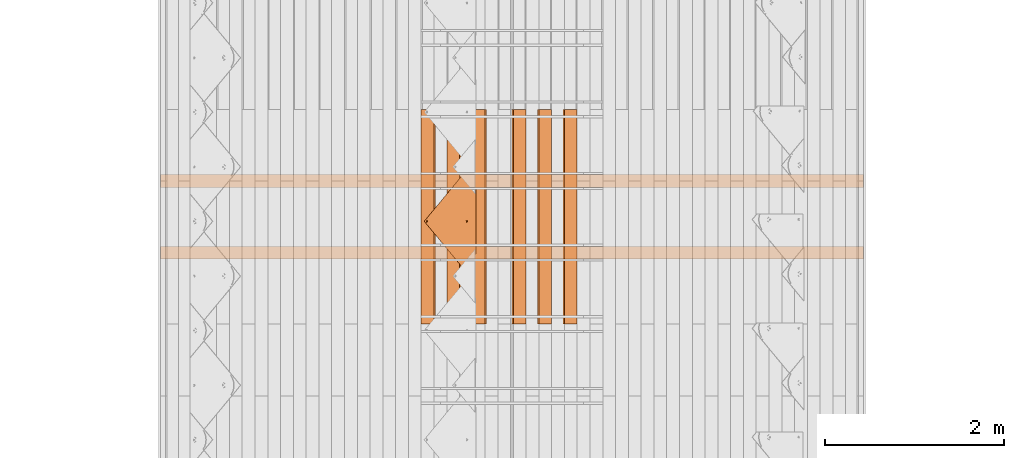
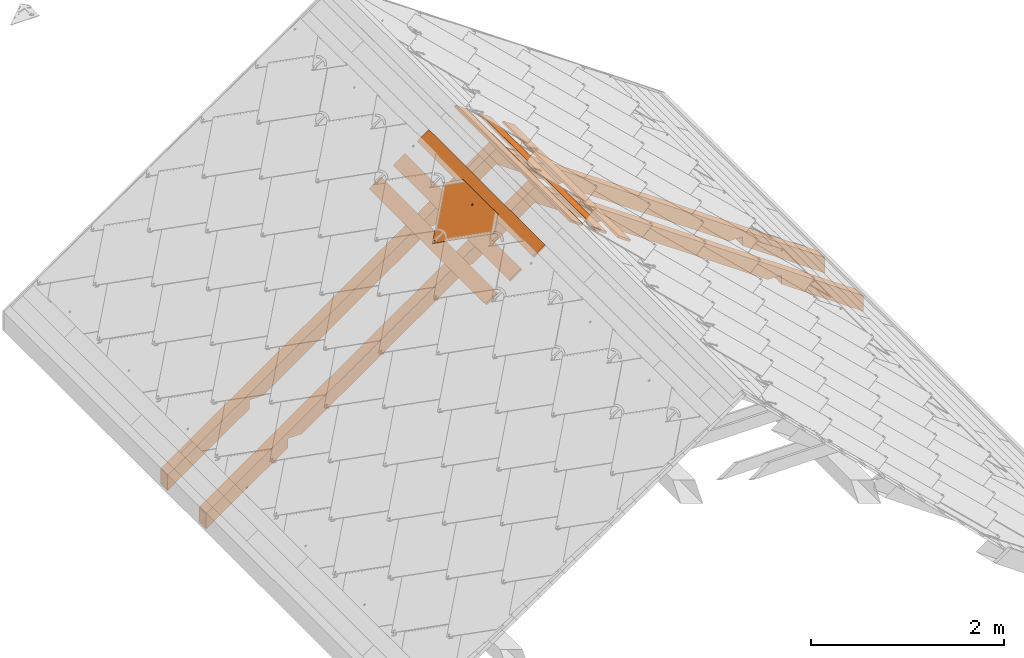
# One storey, part 57 of 133: 9 proxies, 1 element without a shape of its own.
"""IFC2X3 building model written with IfcOpenShell, lengths in millimetres."""

from ifc_helpers import new_model, entity, si_unit, converted_unit, derived_unit, direction, frame, frame_2d, origin, place, context, subcontext, project, spatial, polyline, rectangle, outline, extrude, faceted_brep, source, transform, mapped, material, material_list, type_object, type_shapes, element, aggregate, save


model = new_model("IFC2X3")

# Units and contexts
model_context = context("Model", 3, precision=0.01, world=origin(), true_north=direction((6.12303176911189e-17, 1.0)))
body_context = subcontext(model_context, "Body", "Model", "MODEL_VIEW")
ifc_project = project(units=[si_unit("LENGTHUNIT", "METRE", prefix="MILLI"), si_unit("AREAUNIT", "SQUARE_METRE"), si_unit("VOLUMEUNIT", "CUBIC_METRE"), converted_unit("PLANEANGLEUNIT", "DEGREE", entity("IfcRatioMeasure", 0.0174532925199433), si_unit("PLANEANGLEUNIT", "RADIAN"), dimensions=[0, 0, 0, 0, 0, 0, 0]), si_unit("MASSUNIT", "GRAM", prefix="KILO"), derived_unit("MASSDENSITYUNIT", [(si_unit("MASSUNIT", "GRAM", prefix="KILO"), 1), (si_unit("LENGTHUNIT", "METRE"), -3)]), si_unit("TIMEUNIT", "SECOND"), si_unit("FREQUENCYUNIT", "HERTZ"), si_unit("THERMODYNAMICTEMPERATUREUNIT", "DEGREE_CELSIUS"), derived_unit("THERMALTRANSMITTANCEUNIT", [(si_unit("MASSUNIT", "GRAM", prefix="KILO"), 1), (si_unit("THERMODYNAMICTEMPERATUREUNIT", "KELVIN"), -1), (si_unit("TIMEUNIT", "SECOND"), -3)]), derived_unit("VOLUMETRICFLOWRATEUNIT", [(si_unit("LENGTHUNIT", "METRE"), 3), (si_unit("TIMEUNIT", "SECOND"), -1)]), si_unit("ELECTRICCURRENTUNIT", "AMPERE"), si_unit("ELECTRICVOLTAGEUNIT", "VOLT"), si_unit("POWERUNIT", "WATT"), si_unit("FORCEUNIT", "NEWTON", prefix="KILO"), si_unit("ILLUMINANCEUNIT", "LUX"), si_unit("LUMINOUSFLUXUNIT", "LUMEN"), si_unit("LUMINOUSINTENSITYUNIT", "CANDELA"), derived_unit("USERDEFINED", [(si_unit("MASSUNIT", "GRAM", prefix="KILO"), -1), (si_unit("LENGTHUNIT", "METRE"), -2), (si_unit("TIMEUNIT", "SECOND"), 3), (si_unit("LUMINOUSFLUXUNIT", "LUMEN"), 1)]), derived_unit("LINEARVELOCITYUNIT", [(si_unit("LENGTHUNIT", "METRE"), 1), (si_unit("TIMEUNIT", "SECOND"), -1)]), si_unit("PRESSUREUNIT", "PASCAL"), derived_unit("USERDEFINED", [(si_unit("LENGTHUNIT", "METRE"), -2), (si_unit("MASSUNIT", "GRAM", prefix="KILO"), 1), (si_unit("TIMEUNIT", "SECOND"), -2)])], contexts=[model_context])

# Site, building, storey
site_placement = place(None, origin())
site = spatial("IfcSite", under=ifc_project, at=site_placement, Name="Default", CompositionType="ELEMENT")
building_placement = place(site_placement, origin())
building = spatial("IfcBuilding", under=site, at=building_placement, CompositionType="ELEMENT")
storey_placement = place(building_placement, origin())
storey = spatial("IfcBuildingStorey", under=building, at=storey_placement, Name="Level 1", CompositionType="ELEMENT", Elevation=0.0)

# Assembly, proxies
assembly_placement = place(storey_placement, origin())
assembly = element("IfcElementAssembly", 1, at=assembly_placement, inside=storey, Name="Structural Framing Assembly:Roof Construction Assembly", ObjectType="Structural Framing Assembly:Roof Construction Assembly", AssemblyPlace="NOTDEFINED", PredefinedType="USERDEFINED")
ifc_material_1 = material(Name="Wood - Generic - Wood For Showcase")
building_element_proxy_type_1 = type_object("IfcBuildingElementProxyType", Name="Structural Framing 1", PredefinedType="NOTDEFINED", material=ifc_material_1)
shared_shape_1 = source(origin(), body_context, "Body", "SweptSolid", [
    extrude(outline(polyline([(-929.245683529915, -1327.10037070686), (3863.25950492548, -1327.10037070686), (3975.29271103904, -1167.10037070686), (2778.93361405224, -1167.10037070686), (2713.54351952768, -1260.48710386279), (2580.17344271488, -1167.10037070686), (278.933614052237, -1167.10037070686), (213.54351952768, -1260.48710386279), (80.1734427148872, -1167.10037070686), (-817.212477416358, -1167.10037070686), (-1124.13653843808, -323.833443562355), (-1257.50661525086, -230.446710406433), (-1192.11652072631, -137.059977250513), (-1979.18689675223, 2025.39810840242), (-2112.55697356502, 2118.78484155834), (-2047.16687904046, 2212.17157471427), (-2456.34578886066, 3336.38138996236), (-2568.37899497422, 3176.38138996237), (-929.245683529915, -1327.10037070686)])), frame((1206.77890726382, 3785.55080214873, 1179.90959070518), z_axis=(0.0, 1.0, 0.0), x_axis=(0.819152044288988, 0.0, -0.573576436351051)), (0.0, 0.0, 1.0), 140.0),
])
type_shapes(building_element_proxy_type_1, [shared_shape_1])
proxy_1_placement = place(assembly_placement, frame((0.0, -3200.0, 0.0)))
proxy_1 = element("IfcBuildingElementProxy", 2, at=proxy_1_placement, type_object=building_element_proxy_type_1, material=ifc_material_1, Name="Structural Framing 5:Structural Framing 1", ObjectType="Structural Framing 5:Structural Framing 1", context=body_context, shape_type="MappedRepresentation", body=[
    mapped(shared_shape_1, transform((0.0, 0.0, 0.0), scale=1.0)),
])
building_element_proxy_type_2 = type_object("IfcBuildingElementProxyType", Name="Structural Framing 1", PredefinedType="NOTDEFINED", material=ifc_material_1)
shared_shape_2 = source(origin(), body_context, "Body", "SweptSolid", [
    extrude(outline(polyline([(-929.245683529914, -1327.10037070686), (3863.25950492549, -1327.10037070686), (3975.29271103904, -1167.10037070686), (2778.93361405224, -1167.10037070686), (2713.54351952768, -1260.48710386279), (2580.17344271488, -1167.10037070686), (278.933614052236, -1167.10037070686), (213.543519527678, -1260.48710386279), (80.1734427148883, -1167.10037070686), (-817.212477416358, -1167.10037070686), (-1124.13653843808, -323.833443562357), (-1257.50661525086, -230.446710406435), (-1192.11652072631, -137.059977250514), (-1979.18689675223, 2025.39810840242), (-2112.55697356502, 2118.78484155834), (-2047.16687904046, 2212.17157471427), (-2456.34578886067, 3336.38138996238), (-2568.37899497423, 3176.38138996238), (-929.245683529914, -1327.10037070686)])), frame((1206.77890726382, 3785.55080214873, 1179.90959070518), z_axis=(0.0, 1.0, 0.0), x_axis=(0.819152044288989, 0.0, -0.573576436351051)), (0.0, 0.0, 1.0), 140.0),
])
type_shapes(building_element_proxy_type_2, [shared_shape_2])
proxy_2_placement = place(assembly_placement, frame((0.0, -4000.0, 0.0)))
proxy_2 = element("IfcBuildingElementProxy", 3, at=proxy_2_placement, type_object=building_element_proxy_type_2, material=ifc_material_1, Name="Structural Framing 6:Structural Framing 1", ObjectType="Structural Framing 6:Structural Framing 1", context=body_context, shape_type="MappedRepresentation", body=[
    mapped(shared_shape_2, transform((0.0, 0.0, 0.0), scale=1.0)),
])
building_element_proxy_type_3 = type_object("IfcBuildingElementProxyType", Name="Structural Framing 15", PredefinedType="NOTDEFINED", material=ifc_material_1)
shared_shape_3 = source(origin(), body_context, "Body", "SweptSolid", [
    extrude(rectangle(XDim=24.9999999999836, YDim=174.344679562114, at=frame_2d((2.97539770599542e-13, -4.2632564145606e-14), x_axis=(1.0, 0.0))), frame((1285.35601305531, 1525.55080214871, 2760.23940055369), z_axis=(0.0, 1.0, 0.0), x_axis=(0.573576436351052, 0.0, 0.819152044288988)), (0.0, 0.0, 1.0), 2400.0),
])
type_shapes(building_element_proxy_type_3, [shared_shape_3])
proxy_3_placement = place(assembly_placement, frame((0.0, -2470.0, 0.0)))
proxy_3 = element("IfcBuildingElementProxy", 4, at=proxy_3_placement, type_object=building_element_proxy_type_3, material=ifc_material_1, Name="Structural Framing 156:Structural Framing 15", ObjectType="Structural Framing 156:Structural Framing 15", context=body_context, shape_type="MappedRepresentation", body=[
    mapped(shared_shape_3, transform((0.0, 0.0, 0.0), scale=1.0)),
])
building_element_proxy_type_4 = type_object("IfcBuildingElementProxyType", Name="Structural Framing 15", PredefinedType="NOTDEFINED", material=ifc_material_1)
shared_shape_4 = source(origin(), body_context, "Body", "SweptSolid", [
    extrude(rectangle(XDim=24.9999999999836, YDim=174.344679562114, at=frame_2d((2.97539770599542e-13, -4.2632564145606e-14), x_axis=(1.0, 0.0))), frame((1285.35601305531, 1525.55080214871, 2760.23940055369), z_axis=(0.0, 1.0, 0.0), x_axis=(0.573576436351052, 0.0, 0.819152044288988)), (0.0, 0.0, 1.0), 2400.0),
])
type_shapes(building_element_proxy_type_4, [shared_shape_4])
proxy_4_placement = place(assembly_placement, frame((285.629601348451, -2470.0, -200.0)))
proxy_4 = element("IfcBuildingElementProxy", 5, at=proxy_4_placement, type_object=building_element_proxy_type_4, material=ifc_material_1, Name="Structural Framing 166:Structural Framing 15", ObjectType="Structural Framing 166:Structural Framing 15", context=body_context, shape_type="MappedRepresentation", body=[
    mapped(shared_shape_4, transform((0.0, 0.0, 0.0), scale=1.0)),
])
building_element_proxy_type_5 = type_object("IfcBuildingElementProxyType", Name="Structural Framing 15", PredefinedType="NOTDEFINED", material=ifc_material_1)
shared_shape_5 = source(origin(), body_context, "Body", "SweptSolid", [
    extrude(rectangle(XDim=24.9999999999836, YDim=174.344679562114, at=frame_2d((2.97539770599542e-13, -4.2632564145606e-14), x_axis=(1.0, 0.0))), frame((1285.35601305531, 1525.55080214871, 2760.23940055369), z_axis=(0.0, 1.0, 0.0), x_axis=(0.573576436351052, 0.0, 0.819152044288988)), (0.0, 0.0, 1.0), 2400.0),
])
type_shapes(building_element_proxy_type_5, [shared_shape_5])
proxy_5_placement = place(assembly_placement, frame((571.259202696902, -2470.0, -400.0)))
proxy_5 = element("IfcBuildingElementProxy", 6, at=proxy_5_placement, type_object=building_element_proxy_type_5, material=ifc_material_1, Name="Structural Framing 176:Structural Framing 15", ObjectType="Structural Framing 176:Structural Framing 15", context=body_context, shape_type="MappedRepresentation", body=[
    mapped(shared_shape_5, transform((0.0, 0.0, 0.0), scale=1.0)),
])
building_element_proxy_type_6 = type_object("IfcBuildingElementProxyType", Name="Structural Framing 15", PredefinedType="NOTDEFINED", material=ifc_material_1)
shared_shape_6 = source(origin(), body_context, "Body", "SweptSolid", [
    extrude(rectangle(XDim=24.9999999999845, YDim=174.344679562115, at=frame_2d((-1.77635683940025e-13, -4.54747350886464e-13), x_axis=(0.0, 1.0))), frame((1128.20180147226, 1525.55080214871, 2760.23940055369), z_axis=(0.0, 1.0, 0.0), x_axis=(-0.819152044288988, 0.0, -0.573576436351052)), (0.0, 0.0, 1.0), 2400.0),
])
type_shapes(building_element_proxy_type_6, [shared_shape_6])
proxy_6_placement = place(assembly_placement, frame((-285.629601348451, -2470.0, -200.0)))
proxy_6 = element("IfcBuildingElementProxy", 7, at=proxy_6_placement, type_object=building_element_proxy_type_6, material=ifc_material_1, Name="Structural Framing 26:Structural Framing 15", ObjectType="Structural Framing 26:Structural Framing 15", context=body_context, shape_type="MappedRepresentation", body=[
    mapped(shared_shape_6, transform((0.0, 0.0, 0.0), scale=1.0)),
])
building_element_proxy_type_7 = type_object("IfcBuildingElementProxyType", Name="Structural Framing 15", PredefinedType="NOTDEFINED", material=ifc_material_1)
shared_shape_7 = source(origin(), body_context, "Body", "SweptSolid", [
    extrude(rectangle(XDim=24.9999999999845, YDim=174.344679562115, at=frame_2d((-1.77635683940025e-13, -4.54747350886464e-13), x_axis=(0.0, 1.0))), frame((1128.20180147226, 1525.55080214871, 2760.23940055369), z_axis=(0.0, 1.0, 0.0), x_axis=(-0.819152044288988, 0.0, -0.573576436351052)), (0.0, 0.0, 1.0), 2400.0),
])
type_shapes(building_element_proxy_type_7, [shared_shape_7])
proxy_7_placement = place(assembly_placement, frame((-571.259202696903, -2470.0, -400.0)))
proxy_7 = element("IfcBuildingElementProxy", 8, at=proxy_7_placement, type_object=building_element_proxy_type_7, material=ifc_material_1, Name="Structural Framing 36:Structural Framing 15", ObjectType="Structural Framing 36:Structural Framing 15", context=body_context, shape_type="MappedRepresentation", body=[
    mapped(shared_shape_7, transform((0.0, 0.0, 0.0), scale=1.0)),
])
building_element_proxy_type_8 = type_object("IfcBuildingElementProxyType", Name="Structural Framing 15", PredefinedType="NOTDEFINED", material=ifc_material_1)
shared_shape_8 = source(origin(), body_context, "Body", "SweptSolid", [
    extrude(rectangle(XDim=24.9999999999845, YDim=174.344679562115, at=frame_2d((-1.77635683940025e-13, -4.54747350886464e-13), x_axis=(0.0, 1.0))), frame((1128.20180147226, 1525.55080214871, 2760.23940055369), z_axis=(0.0, 1.0, 0.0), x_axis=(-0.819152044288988, 0.0, -0.573576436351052)), (0.0, 0.0, 1.0), 2400.0),
])
type_shapes(building_element_proxy_type_8, [shared_shape_8])
proxy_8_placement = place(assembly_placement, frame((-856.888804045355, -2470.0, -600.0)))
proxy_8 = element("IfcBuildingElementProxy", 9, at=proxy_8_placement, type_object=building_element_proxy_type_8, material=ifc_material_1, Name="Structural Framing 46:Structural Framing 15", ObjectType="Structural Framing 46:Structural Framing 15", context=body_context, shape_type="MappedRepresentation", body=[
    mapped(shared_shape_8, transform((0.0, 0.0, 0.0), scale=1.0)),
])
aggregate(assembly, [proxy_1, proxy_2, proxy_3, proxy_4, proxy_5, proxy_6, proxy_7, proxy_8])

# Proxy
ifc_material_2 = material(Name="Rubber - Sunstyle - Black")
ifc_material_3 = material(Name="Glass - Sunstyle - Tainted Black")
ifc_material_list_1 = material_list([ifc_material_2, ifc_material_3])
ifc_material_list_2 = material_list([ifc_material_2, ifc_material_3])
building_element_proxy_type_9 = type_object("IfcBuildingElementProxyType", Name="Shingle Top - Black", PredefinedType="NOTDEFINED", material=ifc_material_list_2)
shared_shape_9 = source(origin(), body_context, "Body", "Brep", [
    faceted_brep([(-518.396436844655, -96.9865733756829, 16.4476231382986), (-518.396436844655, -96.9614556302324, 17.9474128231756), (-526.881123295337, -88.4767691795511, 17.8053154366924), (-526.881123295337, -88.5018869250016, 16.3055257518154), (-376.996804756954, 61.3404039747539, 13.7960402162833), (-368.512118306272, 52.8557175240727, 13.9381376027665), (-376.996804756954, 61.3655217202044, 15.2958299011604), (-368.512118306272, 52.8808352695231, 15.4379272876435)], [[[0, 1, 2, 3]], [[0, 3, 4, 5]], [[3, 2, 6, 4]], [[2, 1, 7, 6]], [[1, 0, 5, 7]], [[5, 4, 6, 7]]]),
    faceted_brep([(0.166366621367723, -33.6374645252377, -4.47296585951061), (-5.6078362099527, -36.9707346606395, -4.4171418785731), (-5.60783620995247, -36.6024255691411, 17.5747274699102), (0.166366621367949, -33.2691554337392, 17.5189034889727), (-5.60783620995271, -43.6372749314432, -4.30549391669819), (-5.60783620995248, -43.2689658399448, 17.6863754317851), (0.166366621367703, -46.9705450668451, -4.24966993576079), (0.166366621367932, -46.6022359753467, 17.7421994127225), (5.94056945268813, -43.6372749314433, -4.30549391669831), (5.94056945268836, -43.2689658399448, 17.686375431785), (5.94056945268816, -36.9707346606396, -4.41714187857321), (5.94056945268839, -36.6024255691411, 17.5747274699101), (-8.43733754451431, -48.5381935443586, 17.774621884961), (0.16636662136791, -52.1014648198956, 17.8342978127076), (-12.0011084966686, -39.9356957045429, 17.6305514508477), (-8.43733754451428, -31.3331978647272, 17.4864810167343), (0.166366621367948, -27.7699265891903, 17.4268050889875), (8.77007078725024, -31.3331978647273, 17.4864810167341), (12.3338417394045, -39.935695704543, 17.6305514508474), (8.77007078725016, -48.5381935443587, 17.7746218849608), (-11.1578780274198, -37.6406185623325, 19.9433933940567), (-9.59010793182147, -39.8646808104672, 21.8708760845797), (0.166366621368, -32.5516055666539, 22.5035764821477), (0.166366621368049, -31.3111079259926, 21.9232298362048), (0.166366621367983, -29.1535570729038, 20.9138547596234), (0.166366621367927, -51.5454208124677, 19.1093557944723), (0.166366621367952, -50.6018442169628, 21.273060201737), (0.166366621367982, -47.1524685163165, 22.7481046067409), (0.166366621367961, -28.2829626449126, 18.7197675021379), (-6.15687907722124, -43.5022527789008, 22.6869725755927), (-6.15687907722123, -36.2018213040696, 22.5647085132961), (11.4906112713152, -42.1520387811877, 20.0189484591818), (10.0152467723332, -40.9390872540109, 21.7920079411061), (6.48961231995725, -36.2018213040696, 22.564708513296), (6.48961231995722, -43.5022527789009, 22.6869725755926), (-6.15687907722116, -43.3682243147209, 30.68986075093), (0.166366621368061, -47.0184400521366, 30.7509927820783), (0.166366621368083, -39.7180085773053, 30.6287287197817), (-6.15687907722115, -36.0677928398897, 30.5675966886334), (6.48961231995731, -43.368224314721, 30.6898607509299), (6.48961231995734, -36.0677928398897, 30.5675966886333), (0.166366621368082, -32.417577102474, 30.5064646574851), (0.166366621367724, -40.3040047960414, -4.36131789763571)], [[[0, 1, 2, 3]], [[1, 4, 5, 2]], [[4, 6, 7, 5]], [[6, 8, 9, 7]], [[8, 10, 11, 9]], [[10, 0, 3, 11]], [[12, 7, 13]], [[7, 12, 5]], [[14, 5, 12]], [[5, 14, 2]], [[15, 2, 14]], [[3, 2, 15]], [[15, 16, 3]], [[16, 17, 3]], [[11, 3, 17]], [[11, 17, 18]], [[9, 11, 18]], [[18, 19, 9]], [[7, 9, 19]], [[19, 13, 7]], [[20, 14, 12]], [[21, 22, 23, 24]], [[24, 20, 21]], [[25, 20, 12]], [[26, 27, 21]], [[15, 14, 20]], [[12, 13, 25]], [[20, 28, 15]], [[28, 20, 24]], [[21, 27, 29]], [[21, 29, 30]], [[26, 21, 20]], [[20, 25, 26]], [[15, 28, 16]], [[21, 30, 22]], [[31, 18, 17]], [[28, 31, 17]], [[32, 27, 26]], [[26, 31, 32]], [[26, 25, 31]], [[25, 19, 31]], [[17, 16, 28]], [[31, 19, 18]], [[24, 31, 28]], [[33, 34, 32]], [[23, 22, 33]], [[24, 32, 31]], [[27, 32, 34]], [[32, 23, 33]], [[19, 25, 13]], [[32, 24, 23]], [[35, 36, 37]], [[37, 38, 35]], [[36, 39, 37]], [[40, 37, 39]], [[37, 40, 41]], [[37, 41, 38]], [[42, 6, 4]], [[4, 1, 42]], [[1, 0, 42]], [[42, 8, 6]], [[0, 10, 42]], [[8, 42, 10]], [[22, 30, 38, 41]], [[30, 29, 35, 38]], [[29, 27, 36, 35]], [[27, 34, 39, 36]], [[34, 33, 40, 39]], [[33, 22, 41, 40]]]),
    faceted_brep([(0.0, -573.927138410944, 4.00636906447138), (-5.77420283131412, -577.260408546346, 4.0621930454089), (-5.77420283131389, -576.892099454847, 26.0540623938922), (0.0, -573.558829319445, 25.9982384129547), (-5.77420283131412, -583.926948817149, 4.1738410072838), (-5.7742028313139, -583.558639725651, 26.1657103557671), (0.0, -587.260218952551, 4.2296649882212), (0.0, -586.891909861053, 26.2215343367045), (5.77420283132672, -583.926948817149, 4.17384100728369), (5.77420283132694, -583.558639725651, 26.165710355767), (5.77420283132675, -577.260408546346, 4.06219304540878), (5.77420283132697, -576.892099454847, 26.0540623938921), (-8.60370416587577, -588.827867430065, 26.253956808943), (0.0, -592.391138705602, 26.3136327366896), (-12.1674751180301, -580.225369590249, 26.1098863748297), (-8.60370416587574, -571.622871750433, 25.9658159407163), (0.0, -568.059600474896, 25.9061400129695), (8.60370416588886, -571.622871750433, 25.9658159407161), (12.1674751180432, -580.225369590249, 26.1098863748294), (8.60370416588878, -588.827867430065, 26.2539568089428), (-11.3242446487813, -577.930292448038, 28.4227283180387), (-9.75647455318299, -580.154354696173, 30.3502110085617), (0.0, -572.84127945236, 30.9829114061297), (0.0, -571.600781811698, 30.4025647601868), (0.0, -569.44323095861, 29.3931896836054), (0.0, -591.835094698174, 27.5886907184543), (0.0, -590.891518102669, 29.752395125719), (0.0, -587.442142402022, 31.227439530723), (0.0, -568.572636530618, 27.1991024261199), (-6.32324569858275, -583.791926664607, 31.1663074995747), (-6.32324569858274, -576.491495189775, 31.0440434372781), (11.3242446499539, -582.441712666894, 28.4982833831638), (9.84888015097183, -581.228761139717, 30.2713428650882), (6.32324569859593, -576.491495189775, 31.044043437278), (6.32324569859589, -583.791926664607, 31.1663074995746), (-6.32324569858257, -583.657898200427, 39.169195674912), (0.0, -587.308113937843, 39.2303277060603), (0.0, -580.007682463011, 39.1080636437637), (-6.32324569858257, -576.357466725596, 39.0469316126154), (6.32324569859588, -583.657898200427, 39.1691956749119), (6.32324569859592, -576.357466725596, 39.0469316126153), (0.0, -572.70725098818, 38.9857995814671), (0.0, -580.593678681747, 4.11801702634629)], [[[0, 1, 2, 3]], [[1, 4, 5, 2]], [[4, 6, 7, 5]], [[6, 8, 9, 7]], [[8, 10, 11, 9]], [[10, 0, 3, 11]], [[12, 7, 13]], [[7, 12, 5]], [[14, 5, 12]], [[5, 14, 2]], [[15, 2, 14]], [[3, 2, 15]], [[15, 16, 3]], [[16, 17, 3]], [[11, 3, 17]], [[11, 17, 18]], [[9, 11, 18]], [[18, 19, 9]], [[7, 9, 19]], [[19, 13, 7]], [[20, 14, 12]], [[21, 22, 23, 24]], [[24, 20, 21]], [[25, 20, 12]], [[26, 27, 21]], [[15, 14, 20]], [[12, 13, 25]], [[20, 28, 15]], [[28, 20, 24]], [[21, 27, 29]], [[21, 29, 30]], [[26, 21, 20]], [[20, 25, 26]], [[15, 28, 16]], [[21, 30, 22]], [[31, 18, 17]], [[28, 31, 17]], [[32, 27, 26]], [[26, 31, 32]], [[26, 25, 31]], [[25, 19, 31]], [[17, 16, 28]], [[31, 19, 18]], [[24, 31, 28]], [[33, 34, 32]], [[23, 22, 33]], [[24, 32, 31]], [[27, 32, 34]], [[32, 23, 33]], [[19, 25, 13]], [[32, 24, 23]], [[35, 36, 37]], [[37, 38, 35]], [[36, 39, 37]], [[40, 37, 39]], [[37, 40, 41]], [[37, 41, 38]], [[42, 6, 4]], [[4, 1, 42]], [[1, 0, 42]], [[42, 8, 6]], [[0, 10, 42]], [[8, 42, 10]], [[22, 30, 38, 41]], [[30, 29, 35, 38]], [[29, 27, 36, 35]], [[27, 34, 39, 36]], [[34, 33, 40, 39]], [[33, 22, 41, 40]]]),
    faceted_brep([(518.482751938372, -96.8754983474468, 17.9260478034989), (526.967438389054, -88.3908118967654, 17.7839504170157), (526.967438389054, -88.3656941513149, 19.2837401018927), (518.482751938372, -96.8503806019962, 19.4258374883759), (349.749400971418, 71.8105397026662, 15.1009763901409), (358.234087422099, 80.2952261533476, 14.9588790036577), (358.234087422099, 80.3203438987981, 16.4586686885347), (349.749400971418, 71.8356574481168, 16.6007660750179)], [[[0, 1, 2, 3]], [[1, 0, 4, 5]], [[2, 1, 5, 6]], [[3, 2, 6, 7]], [[0, 3, 7, 4]], [[4, 7, 6, 5]]]),
    faceted_brep([(358.234087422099, 80.2952261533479, 14.9588790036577), (6.94661128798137, -35.8890860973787, 16.9046771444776), (7.74581466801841, -37.8182632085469, 16.9369860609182), (5.67526230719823, -34.2324641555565, 16.8769328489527), (8.01840805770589, -39.8885252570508, 16.9716577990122), (7.74581466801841, -41.9587873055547, 17.0063295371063), (6.94661128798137, -43.8879644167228, 17.0386384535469), (526.967438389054, -88.3908118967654, 17.7839504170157), (4.01840805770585, -32.9612934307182, 16.855643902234), (2.08896041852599, -32.1622021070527, 16.8422611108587), (0.0184080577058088, -31.8896469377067, 16.8376964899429), (-358.233442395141, 80.2952261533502, 14.9588790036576), (-2.05214430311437, -32.1622021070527, 16.8422611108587), (-3.98159194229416, -32.9612934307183, 16.855643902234), (-5.63844619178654, -34.2324641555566, 16.8769328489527), (-6.90979517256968, -35.8890860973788, 16.9046771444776), (-7.70899855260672, -37.8182632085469, 16.9369860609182), (-7.98159194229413, -39.8885252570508, 16.9716577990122), (-7.70899855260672, -41.9587873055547, 17.0063295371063), (-6.90979517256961, -43.8879644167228, 17.0386384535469), (-526.966793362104, -88.390811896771, 17.7839504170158), (-5.63844619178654, -45.544586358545, 17.0663827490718), (-5.6568542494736, -574.226981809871, 25.9204974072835), (-6.92820323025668, -575.883603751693, 25.9482417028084), (-7.72740661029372, -577.812780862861, 25.980550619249), (-8.0, -579.883042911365, 26.015222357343), (-7.72740661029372, -581.953304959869, 26.049894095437), (0.000322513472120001, -615.210165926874, 26.6068637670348), (7.72740661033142, -581.953304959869, 26.049894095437), (6.92820323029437, -583.882482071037, 26.0822030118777), (5.65685424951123, -585.53910401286, 26.1099473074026), (4.0, -586.810274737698, 26.1312362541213), (2.070552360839, -587.609366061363, 26.1446190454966), (0.0, -587.881921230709, 26.1491836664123), (-2.0705523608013, -587.609366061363, 26.1446190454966), (-4.0, -586.810274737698, 26.1312362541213), (-5.65685424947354, -585.53910401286, 26.1099473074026), (-6.92820323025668, -583.882482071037, 26.0822030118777), (-4.0, -572.955811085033, 25.8992084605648), (-3.98159194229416, -46.8157570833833, 17.0876716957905), (-2.07055236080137, -572.156719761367, 25.8858256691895), (-2.05214430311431, -47.614848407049, 17.1010544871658), (0.0, -571.884164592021, 25.8812610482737), (0.0184080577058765, -47.8874035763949, 17.1056191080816), (2.07055236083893, -572.156719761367, 25.8858256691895), (2.08896041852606, -47.6148484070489, 17.1010544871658), (4.0, -572.955811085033, 25.8992084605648), (4.01840805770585, -46.8157570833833, 17.0876716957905), (5.65685424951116, -574.226981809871, 25.9204974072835), (5.67526230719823, -45.544586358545, 17.0663827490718), (6.92820323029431, -575.883603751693, 25.9482417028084), (7.72740661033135, -577.812780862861, 25.980550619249), (8.0, -579.883042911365, 26.015222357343), (-358.233442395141, 80.1947551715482, 8.9597202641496), (-6.90979517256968, -35.9895570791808, 10.9055184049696), (-7.70899855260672, -37.9187341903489, 10.9378273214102), (-5.63844619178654, -34.3329351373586, 10.8777741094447), (-7.98159194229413, -39.9889962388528, 10.9724990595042), (-7.70899855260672, -42.0592582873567, 11.0071707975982), (-6.90979517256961, -43.9884353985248, 11.0394797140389), (-526.966793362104, -88.4912828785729, 11.7847916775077), (-3.98159194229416, -33.0617644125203, 10.856485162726), (-2.05214430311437, -32.2626730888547, 10.8431023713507), (0.0184080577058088, -31.9901179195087, 10.8385377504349), (358.234087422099, 80.1947551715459, 8.95972026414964), (2.08896041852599, -32.2626730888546, 10.8431023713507), (4.01840805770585, -33.0617644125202, 10.856485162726), (5.67526230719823, -34.3329351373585, 10.8777741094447), (6.94661128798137, -35.9895570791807, 10.9055184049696), (7.74581466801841, -37.9187341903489, 10.9378273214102), (8.01840805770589, -39.9889962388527, 10.9724990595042), (7.74581466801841, -42.0592582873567, 11.0071707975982), (6.94661128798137, -43.9884353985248, 11.0394797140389), (526.967438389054, -88.4912828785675, 11.7847916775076), (5.67526230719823, -45.645057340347, 11.0672240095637), (5.65685424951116, -574.327452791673, 19.9213386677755), (6.92820323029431, -575.984074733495, 19.9490829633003), (7.72740661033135, -577.913251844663, 19.981391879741), (8.0, -579.983513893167, 20.016063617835), (7.72740661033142, -582.053775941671, 20.050735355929), (0.000322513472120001, -615.310636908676, 20.6077050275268), (-7.72740661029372, -582.053775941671, 20.050735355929), (-6.92820323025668, -583.982953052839, 20.0830442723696), (-5.65685424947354, -585.639574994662, 20.1107885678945), (-4.0, -586.9107457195, 20.1320775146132), (-2.0705523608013, -587.709837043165, 20.1454603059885), (0.0, -587.982392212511, 20.1500249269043), (2.070552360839, -587.709837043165, 20.1454603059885), (4.0, -586.9107457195, 20.1320775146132), (5.65685424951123, -585.639574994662, 20.1107885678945), (6.92820323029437, -583.982953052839, 20.0830442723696), (4.01840805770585, -46.9162280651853, 11.0885129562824), (4.0, -573.056282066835, 19.9000497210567), (2.08896041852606, -47.7153193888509, 11.1018957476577), (2.07055236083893, -572.257190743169, 19.8866669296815), (0.0184080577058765, -47.9878745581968, 11.1064603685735), (0.0, -571.984635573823, 19.8821023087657), (-2.05214430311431, -47.7153193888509, 11.1018957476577), (-2.07055236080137, -572.257190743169, 19.8866669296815), (-3.98159194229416, -46.9162280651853, 11.0885129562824), (-4.0, -573.056282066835, 19.9000497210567), (-5.63844619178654, -45.645057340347, 11.0672240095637), (-5.6568542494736, -574.327452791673, 19.9213386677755), (-6.92820323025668, -575.984074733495, 19.9490829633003), (-7.72740661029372, -577.913251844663, 19.981391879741), (-8.0, -579.983513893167, 20.016063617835)], [[[0, 1, 2]], [[1, 0, 3]], [[0, 2, 4]], [[4, 5, 0]], [[5, 6, 0]], [[7, 0, 6]], [[8, 3, 0]], [[9, 8, 0]], [[10, 9, 0]], [[0, 11, 10]], [[12, 10, 11]], [[13, 12, 11]], [[14, 13, 11]], [[11, 15, 14]], [[15, 11, 16]], [[16, 11, 17]], [[11, 18, 17]], [[18, 11, 19]], [[11, 20, 19]], [[19, 20, 21]], [[20, 22, 21]], [[23, 22, 20]], [[24, 23, 20]], [[24, 20, 25]], [[26, 25, 20]], [[27, 26, 20]], [[7, 28, 27]], [[29, 27, 28]], [[27, 29, 30]], [[30, 31, 27]], [[31, 32, 27]], [[27, 32, 33]], [[27, 33, 34]], [[34, 35, 27]], [[27, 35, 36]], [[36, 37, 27]], [[37, 26, 27]], [[38, 21, 22]], [[38, 39, 21]], [[38, 40, 39]], [[40, 41, 39]], [[40, 42, 41]], [[41, 42, 43]], [[44, 43, 42]], [[44, 45, 43]], [[45, 44, 46]], [[46, 47, 45]], [[46, 48, 47]], [[48, 49, 47]], [[50, 7, 48]], [[48, 7, 49]], [[7, 50, 51]], [[7, 51, 52]], [[52, 28, 7]], [[7, 6, 49]], [[53, 54, 55]], [[54, 53, 56]], [[53, 55, 57]], [[58, 53, 57]], [[59, 53, 58]], [[60, 53, 59]], [[61, 56, 53]], [[62, 61, 53]], [[53, 63, 62]], [[63, 53, 64]], [[65, 63, 64]], [[66, 65, 64]], [[64, 67, 66]], [[67, 64, 68]], [[68, 64, 69]], [[70, 69, 64]], [[71, 70, 64]], [[72, 71, 64]], [[72, 64, 73]], [[72, 73, 74]], [[74, 73, 75]], [[73, 76, 75]], [[76, 73, 77]], [[77, 73, 78]], [[79, 78, 73]], [[79, 73, 80]], [[60, 81, 80]], [[80, 81, 82]], [[80, 82, 83]], [[83, 84, 80]], [[84, 85, 80]], [[85, 86, 80]], [[80, 86, 87]], [[80, 87, 88]], [[80, 88, 89]], [[79, 80, 90]], [[80, 89, 90]], [[75, 91, 74]], [[75, 92, 91]], [[92, 93, 91]], [[93, 92, 94]], [[93, 94, 95]], [[96, 95, 94]], [[97, 95, 96]], [[96, 98, 97]], [[98, 99, 97]], [[98, 100, 99]], [[100, 101, 99]], [[100, 102, 101]], [[60, 101, 102]], [[103, 60, 102]], [[103, 104, 60]], [[104, 105, 60]], [[105, 81, 60]], [[59, 101, 60]], [[27, 20, 60, 80]], [[7, 27, 80, 73]], [[0, 7, 73, 64]], [[25, 105, 104, 24]], [[24, 104, 103, 23]], [[38, 22, 102, 100]], [[102, 22, 23, 103]], [[40, 38, 100, 98]], [[40, 98, 96, 42]], [[42, 96, 94, 44]], [[44, 94, 92, 46]], [[50, 48, 75, 76]], [[75, 48, 46, 92]], [[51, 50, 76, 77]], [[51, 77, 78, 52]], [[52, 78, 79, 28]], [[28, 79, 90, 29]], [[31, 30, 89, 88]], [[29, 90, 89, 30]], [[87, 32, 31, 88]], [[32, 87, 86, 33]], [[34, 33, 86, 85]], [[34, 85, 84, 35]], [[37, 36, 83, 82]], [[35, 84, 83, 36]], [[37, 82, 81, 26]], [[26, 81, 105, 25]], [[17, 57, 55, 16]], [[16, 55, 54, 15]], [[13, 14, 56, 61]], [[56, 14, 15, 54]], [[12, 13, 61, 62]], [[12, 62, 63, 10]], [[10, 63, 65, 9]], [[9, 65, 66, 8]], [[1, 3, 67, 68]], [[67, 3, 8, 66]], [[2, 1, 68, 69]], [[2, 69, 70, 4]], [[4, 70, 71, 5]], [[5, 71, 72, 6]], [[47, 49, 74, 91]], [[74, 49, 6, 72]], [[45, 47, 91, 93]], [[45, 93, 95, 43]], [[43, 95, 97, 41]], [[41, 97, 99, 39]], [[19, 21, 101, 59]], [[101, 21, 39, 99]], [[18, 19, 59, 58]], [[18, 58, 57, 17]], [[11, 0, 64, 53]], [[20, 11, 53, 60]]]),
])
type_shapes(building_element_proxy_type_9, [shared_shape_9])
proxy_9_placement = place(storey_placement, frame((745.409615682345, 205.180873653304, 2507.46510885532), z_axis=(-0.57357643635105, 0.0, 0.819152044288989), x_axis=(0.0, -1.0, 0.0)))
element("IfcBuildingElementProxy", 10, at=proxy_9_placement, inside=storey, type_object=building_element_proxy_type_9, material=ifc_material_list_1, Name="Roofing_Panels_SunStyle_Tile_Shingle-Top:Shingle Top - Black", ObjectType="Roofing_Panels_SunStyle_Tile_Shingle-Top:Shingle Top - Black", context=body_context, shape_type="MappedRepresentation", body=[
    mapped(shared_shape_9, transform((0.0, 0.0, 0.0), scale=1.0)),
])

save(model, "model.ifc")
